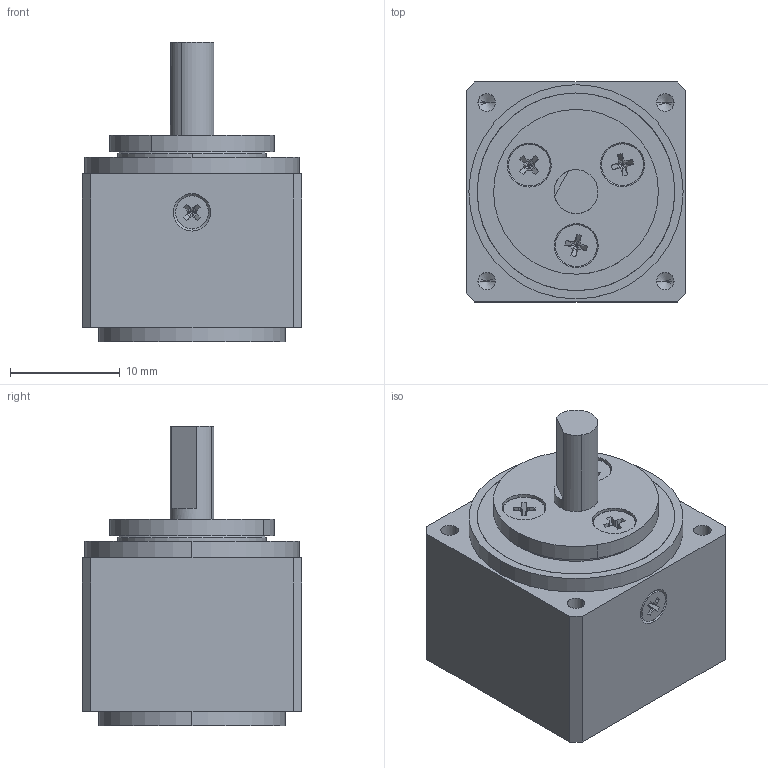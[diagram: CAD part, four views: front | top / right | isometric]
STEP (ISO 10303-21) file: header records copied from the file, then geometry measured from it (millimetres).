
FILE_DESCRIPTION (( 'STEP AP214' ), '1' );
FILE_NAME ('CSF-05-xxx-1U-C.STEP', '2022-05-16T07:32:06', ( 'PC' ), ( 'Microsoft' ), 'SwSTEP 2.0', 'SolidWorks 2016', '' );
FILE_SCHEMA (( 'AUTOMOTIVE_DESIGN' ));
Length unit declared in the file: millimetre
Products named in the file (14): CSF-05-1U-CC芧謫_蕼偞; 十字槽沉头螺钉 M2×5_預設; CSF-05-1U-03_蕼偞; CSF-05蝠脫粣創_蕼偞; 外径14x0.8  O型圈_預設; CSF-05-交叉轴承外圈_1; CSF-05-交叉轴承内圈_1; CSF05-1U-01_蕼偞; CSF-05-xxx-1U-C; CSF05-1U-02_蕼偞; 十字槽沉头螺钉 M1.6×3_預設; CSF-05-1U-CC疏楷汜ん_蕼偞; 13.08x9.8x2.08柔性轴承_預設
Assembly tree (15 placements, depth 3):
  CSF-05-xxx-1U-C
    CSF05-1U-01_蕼偞
    CSF-05蝠脫粣創_蕼偞
      CSF-05-交叉轴承内圈_1
      CSF-05-交叉轴承外圈_1
      外径14x0.8  O型圈_預設
    CSF-05-1U-03_蕼偞
    十字槽沉头螺钉 M2×5_預設
    CSF-05-1U-CC疏楷汜ん_蕼偞
      CSF-05-1U-CC芧謫_蕼偞
      13.08x9.8x2.08柔性轴承_預設
    十字槽沉头螺钉 M1.6×3_預設
    CSF05-1U-02_蕼偞
    十字槽沉头螺钉 M2×5_預設  x3
Bounding box: 20 x 20 x 27.3 mm (x, y, z)
Volume: 5318.1 mm3; surface area: 7269 mm2
Topology: 13 solids, 13 shells, 479 faces, 1024 edges, 585 vertices
Faces by surface type: plane 225, cylinder 146, cone 80, bspline 24, torus 4
Entity records: 14863 total; most frequent: CARTESIAN_POINT 2504, DIRECTION 1886, ORIENTED_EDGE 1640, EDGE_CURVE 820, AXIS2_PLACEMENT_3D 721, VERTEX_POINT 487, VECTOR 444, LINE 444
